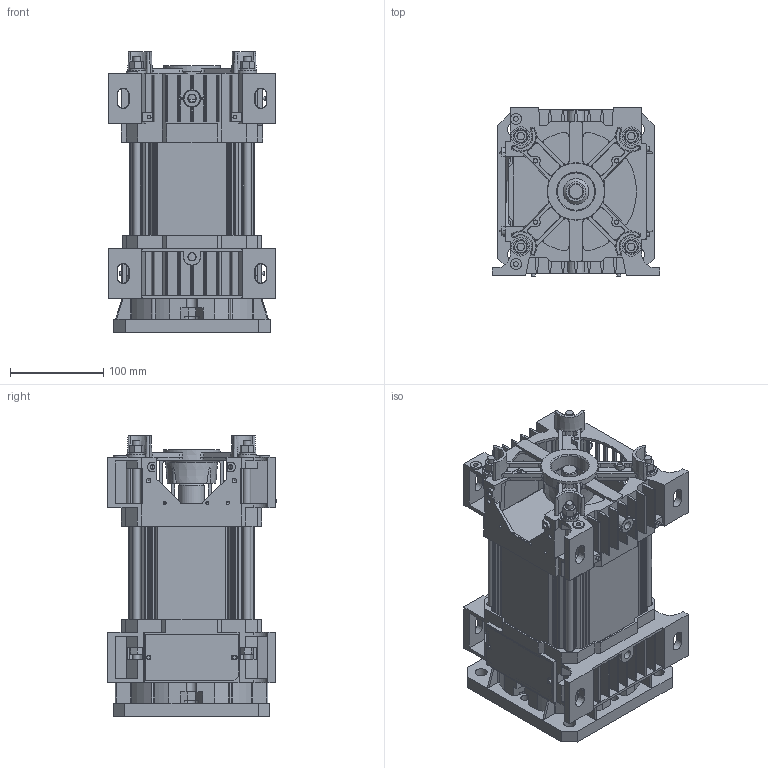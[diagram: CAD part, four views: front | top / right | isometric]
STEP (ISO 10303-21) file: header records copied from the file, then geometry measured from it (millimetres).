
FILE_DESCRIPTION(/* description */ ('Motore Tipo S34 Fl.155 F19-H110 NO Vol. NO Piedi'),/* implementation_level */ '2;1');
FILE_NAME(/* name */ 'Y:\ServerTecnico\Mockup Motori x Sito Elmo\Mockup Tipo S34 Size 3 FL155 F19-H110 NO Volano.stp',/* time_stamp */ '2016-10-06T09:31:55+02:00',/* author */ ('aparmini'),/* organization */ (''),/* preprocessor_version */ 'ST-DEVELOPER v16.5',/* originating_system */ 'Autodesk Inventor 2017',/* authorisation */ '');
FILE_SCHEMA (('AUTOMOTIVE_DESIGN { 1 0 10303 214 3 1 1 }'));
Products named in the file (8): Mockup Tipo S34 Size 3 FL155 F19-H110 NO Volano; Mockup CP3XD040N; Mockup CA3ND155Q; Mockup Statore Size 3 - F19-H110; TI08ML235; UNI 5587 - M8; DIN 125-2 - B 8,4; TGS10
Assembly tree (20 placements, depth 2):
  Mockup Tipo S34 Size 3 FL155 F19-H110 NO Volano
    Mockup CP3XD040N
    Mockup CA3ND155Q
    Mockup Statore Size 3 - F19-H110
    UNI 5587 - M8  x8
    TI08ML235  x4
    DIN 125-2 - B 8,4  x4
    TGS10
Bounding box: 180 x 181 x 301 mm (x, y, z)
Volume: 2858507.5 mm3; surface area: 552161.7 mm2
Topology: 20 solids, 20 shells, 1909 faces, 5299 edges, 3428 vertices
Faces by surface type: plane 1048, cylinder 410, cone 340, bspline 86, torus 25
Full cylindrical faces by diameter (mm): 3.2 x3, 4 x8, 4.917 x4, 5 x2, 6.647 x8, 8 x4, 8.4 x4, 12 x2, 13 x4, 16 x4, 17 x1, 19 x1, 20 x4, 21 x1, 27.5 x1, 32 x1, 40 x2, 40.1 x1, 42.5 x1, 46 x1, 81 x1, 155 x1
Entity records: 58873 total; most frequent: CARTESIAN_POINT 13130, ORIENTED_EDGE 9592, DIRECTION 9568, EDGE_CURVE 4796, AXIS2_PLACEMENT_3D 3303, VERTEX_POINT 3187, LINE 2962, VECTOR 2962
